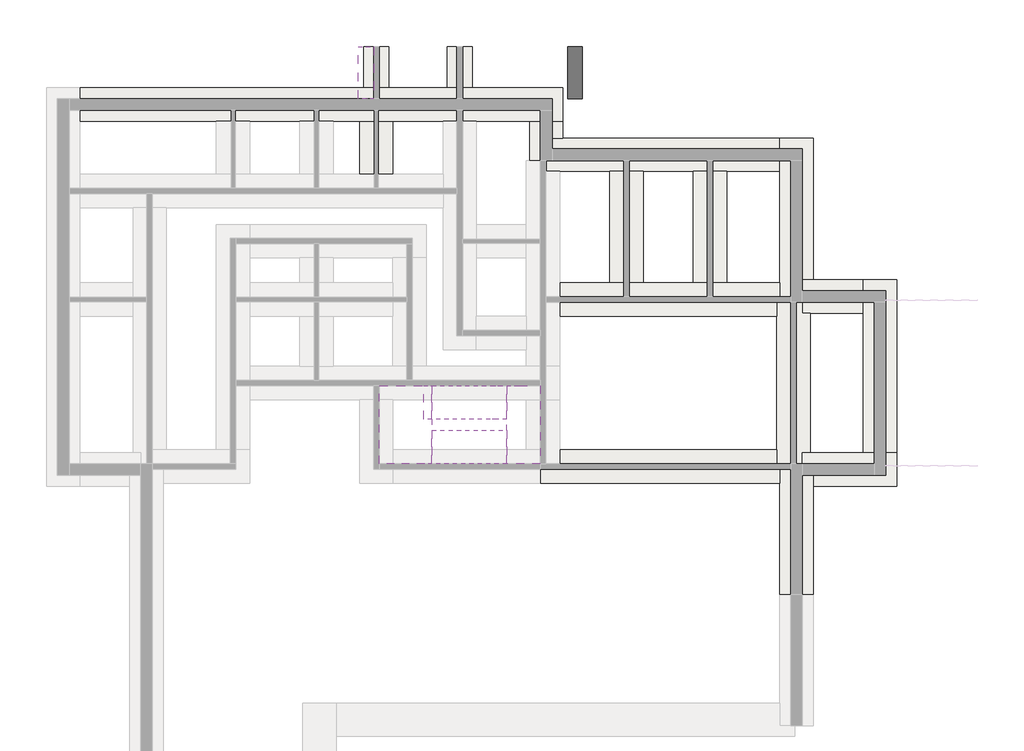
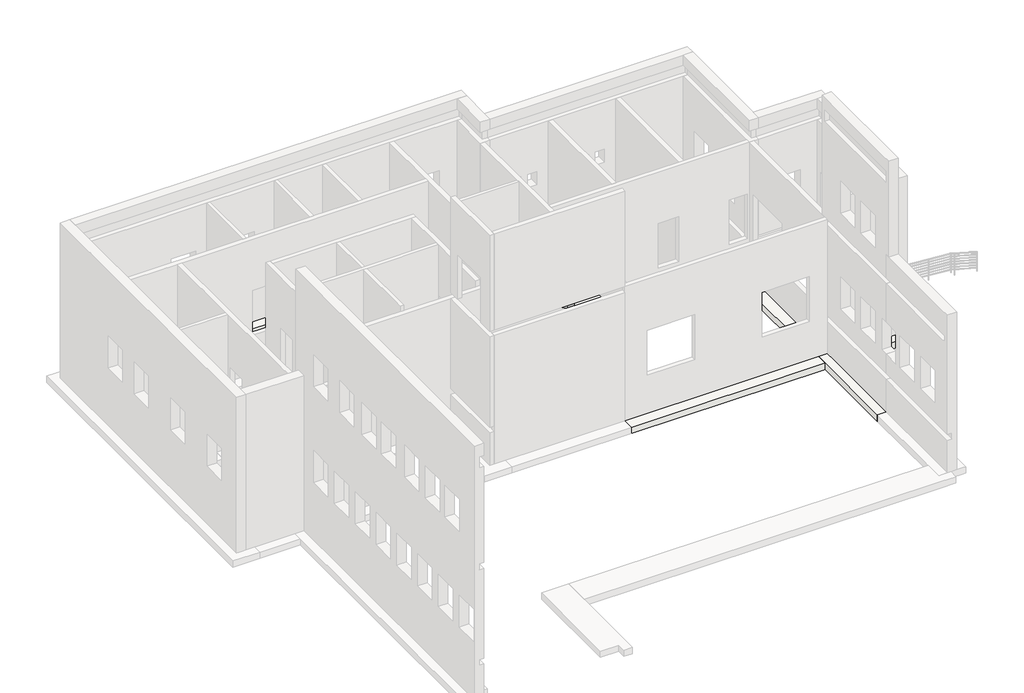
# One storey, part 4 of 5: 16 footings, 4 stair flights, 2 slabs, 1 ramp.
"""IFC4 building model written with IfcOpenShell, lengths in millimetres."""

from ifc_helpers import new_model, si_unit, frame, origin, place, context, project, spatial, polyline, outline, extrude, faceted_brep, transform, mapped, element, save
from components import ramp_f884092f

model = new_model("IFC4")

# Units and contexts
model_context = context("Model", 3, world=origin())
ifc_project = project(units=[si_unit("LENGTHUNIT", "METRE", prefix="MILLI")], contexts=[model_context])

# Site, building, storey
site = spatial("IfcSite", under=ifc_project)
building = spatial("IfcBuilding", under=site)
storey = spatial("IfcBuildingStorey", under=building, Name="Фундамент", Elevation=-1800.0)

# Footings
placement = place(None, origin())
element("IfcFooting", 1, ObjectType="Опорная пята - 1200 x 300", at=placement, inside=storey, context=model_context, shape_type="Brep", body=[
    faceted_brep([(8252.7882356, 5792.3976828, -1800.0), (9062.7882356, 5792.3976828, -1800.0), (9452.7882356, 5792.3976828, -1800.0), (9452.7882356, 5792.3976828, -2100.0), (9062.7882356, 5792.3976828, -2100.0), (8252.7882356, 5792.3976828, -2100.0), (9452.7882356, 1082.3976828, -1800.0), (8252.7882356, 1082.3976828, -1800.0), (8252.7882356, 1082.3976828, -2100.0), (9452.7882356, 1082.3976828, -2100.0), (8252.7882356, 5092.3976828, -1800.0), (9452.7882356, 4982.3976828, -1800.0), (9452.7882356, 4982.3976828, -2100.0), (8252.7882356, 5092.3976828, -2100.0)], [[[0, 1, 2, 3, 4, 5]], [[6, 7, 8, 9]], [[0, 10, 7, 6, 11, 2, 1]], [[3, 2, 11, 6, 9, 12]], [[5, 4, 3, 12, 9, 8, 13]], [[0, 5, 13, 8, 7, 10]]]),
])
element("IfcFooting", 2, ObjectType="Опорная пята - 1200 x 300", at=placement, inside=storey, context=model_context, shape_type="Brep", body=[
    faceted_brep([(9062.7882356, 6182.3976828, -1800.0), (9062.7882356, 6182.3976828, -2100.0), (9062.7882356, 5792.3976828, -2100.0), (9062.7882356, 5792.3976828, -1800.0), (12452.7882356, 6182.3976828, -1800.0), (11252.7882356, 6182.3976828, -1800.0), (9342.7882356, 6182.3976828, -1800.0), (9452.7882356, 5792.3976828, -1800.0), (9452.7882356, 4982.3976828, -1800.0), (12452.7882356, 4982.3976828, -1800.0), (12452.7882356, 4982.3976828, -2100.0), (9452.7882356, 4982.3976828, -2100.0), (9342.7882356, 6182.3976828, -2100.0), (11252.7882356, 6182.3976828, -2100.0), (12452.7882356, 6182.3976828, -2100.0), (9452.7882356, 5792.3976828, -2100.0)], [[[0, 1, 2, 3]], [[4, 5, 6, 0, 3, 7, 8, 9]], [[10, 9, 8, 11]], [[1, 12, 13, 14, 10, 11, 15, 2]], [[1, 0, 6, 5, 4, 14, 13, 12]], [[7, 15, 11, 8]], [[4, 9, 10, 14]], [[15, 7, 3, 2]]]),
])
element("IfcFooting", 3, ObjectType="Опорная пята - 1200 x 300", at=placement, inside=storey, context=model_context, shape_type="Brep", body=[
    faceted_brep([(12452.7882356, 12402.3976828, -1800.0), (11252.7882356, 12402.3976828, -1800.0), (11252.7882356, 11202.3976828, -1800.0), (11252.7882356, 6182.3976828, -1800.0), (12452.7882356, 6182.3976828, -1800.0), (12452.7882356, 12402.3976828, -2100.0), (12452.7882356, 6182.3976828, -2100.0), (11252.7882356, 12402.3976828, -2100.0), (11252.7882356, 6182.3976828, -2100.0), (11252.7882356, 11202.3976828, -2100.0)], [[[0, 1, 2, 3, 4]], [[5, 0, 4, 6]], [[7, 5, 6, 8, 9]], [[1, 7, 9, 8, 3, 2]], [[4, 3, 8, 6]], [[1, 0, 5, 7]]]),
])
element("IfcFooting", 4, ObjectType="Опорная пята - 1200 x 300", at=placement, inside=storey, context=model_context, shape_type="Brep", body=[
    faceted_brep([(9062.7882356, 12402.3976828, -1800.0), (9062.7882356, 12402.3976828, -2100.0), (9062.7882356, 11592.3976828, -2100.0), (9062.7882356, 11202.3976828, -2100.0), (9062.7882356, 11202.3976828, -1800.0), (9062.7882356, 11592.3976828, -1800.0), (9342.7882356, 11202.3976828, -1800.0), (11252.7882356, 11202.3976828, -1800.0), (11252.7882356, 12402.3976828, -1800.0), (9452.7882356, 12402.3976828, -1800.0), (11252.7882356, 12402.3976828, -2100.0), (9452.7882356, 12402.3976828, -2100.0), (11252.7882356, 11202.3976828, -2100.0), (9342.7882356, 11202.3976828, -2100.0)], [[[0, 1, 2, 3, 4, 5]], [[0, 5, 4, 6, 7, 8, 9]], [[1, 0, 9, 8, 10, 11]], [[3, 2, 1, 11, 10, 12, 13]], [[4, 3, 13, 12, 7, 6]], [[8, 7, 12, 10]]]),
])
element("IfcFooting", 5, ObjectType="Опорная пята - 1200 x 300", at=placement, inside=storey, context=model_context, shape_type="Brep", body=[
    faceted_brep([(8252.7882356, 11592.3976828, -1800.0), (8252.7882356, 11592.3976828, -2100.0), (9062.7882356, 11592.3976828, -2100.0), (9062.7882356, 11592.3976828, -1800.0), (8252.7882356, 17502.3976828, -1800.0), (8252.7882356, 16302.3976828, -1800.0), (8252.7882356, 12292.3976828, -1800.0), (9062.7882356, 12402.3976828, -1800.0), (9452.7882356, 12402.3976828, -1800.0), (9452.7882356, 17502.3976828, -1800.0), (9452.7882356, 17502.3976828, -2100.0), (9452.7882356, 12402.3976828, -2100.0), (8252.7882356, 12292.3976828, -2100.0), (8252.7882356, 16302.3976828, -2100.0), (8252.7882356, 17502.3976828, -2100.0), (9062.7882356, 12402.3976828, -2100.0)], [[[0, 1, 2, 3]], [[4, 5, 6, 0, 3, 7, 8, 9]], [[10, 9, 8, 11]], [[1, 12, 13, 14, 10, 11, 15, 2]], [[1, 0, 6, 5, 4, 14, 13, 12]], [[7, 15, 11, 8]], [[4, 9, 10, 14]], [[15, 7, 3, 2]]]),
])
element("IfcFooting", 6, ObjectType="Опорная пята - 1200 x 300", at=placement, inside=storey, context=model_context, shape_type="Brep", body=[
    faceted_brep([(-147.2117644, 16902.3976828, -1800.0), (-149.2724245, 16692.3976828, -1800.0), (-153.0993647, 16302.3976828, -1800.0), (342.7882356, 16302.3976828, -1800.0), (2142.7882356, 16302.3976828, -1800.0), (3342.7882356, 16302.3976828, -1800.0), (5142.7882356, 16302.3976828, -1800.0), (6342.7882356, 16302.3976828, -1800.0), (8252.7882356, 16302.3976828, -1800.0), (8252.7882356, 17502.3976828, -1800.0), (452.7882356, 17502.3976828, -1800.0), (-147.2117644, 17502.3976828, -1800.0), (-147.2117644, 17502.3976828, -2100.0), (8252.7882356, 17502.3976828, -2100.0), (452.7882356, 17502.3976828, -2100.0), (-147.2117644, 16902.3976828, -2100.0), (8252.7882356, 16302.3976828, -2100.0), (6342.7882356, 16302.3976828, -2100.0), (5142.7882356, 16302.3976828, -2100.0), (3342.7882356, 16302.3976828, -2100.0), (2142.7882356, 16302.3976828, -2100.0), (342.7882356, 16302.3976828, -2100.0), (-153.0993647, 16302.3976828, -2100.0), (-149.2724245, 16692.3976828, -2100.0)], [[[0, 1, 2, 3, 4, 5, 6, 7, 8, 9, 10, 11]], [[12, 11, 10, 9, 13, 14]], [[15, 12, 14, 13, 16, 17, 18, 19, 20, 21, 22, 23]], [[2, 22, 21, 20, 19, 18, 17, 16, 8, 7, 6, 5, 4, 3]], [[9, 8, 16, 13]], [[22, 2, 1, 0, 15, 23]], [[11, 12, 15, 0]]]),
])
element("IfcFooting", 7, ObjectType="Опорная пята - 1200 x 300", at=placement, inside=storey, context=model_context, shape_type="Brep", body=[
    faceted_brep([(452.7882356, 18102.3976828, -1800.0), (452.7882356, 19302.3976828, -1800.0), (-2807.2117644, 19302.3976828, -1800.0), (-3707.2117644, 19302.3976828, -1800.0), (-5807.2117644, 19302.3976828, -1800.0), (-6707.2117644, 19302.3976828, -1800.0), (-16917.2117644, 19302.3976828, -1800.0), (-16917.2117644, 18102.3976828, -1800.0), (-12007.2117644, 18102.3976828, -1800.0), (-10807.2117644, 18102.3976828, -1800.0), (-9007.2117644, 18102.3976828, -1800.0), (-7807.2117644, 18102.3976828, -1800.0), (-6857.2117644, 18102.3976828, -1800.0), (-5657.2117644, 18102.3976828, -1800.0), (-3857.2117644, 18102.3976828, -1800.0), (-2657.2117644, 18102.3976828, -1800.0), (-747.2117644, 18102.3976828, -1800.0), (452.7882356, 19302.3976828, -2100.0), (-2807.2117644, 19302.3976828, -2100.0), (-3707.2117644, 19302.3976828, -2100.0), (-5807.2117644, 19302.3976828, -2100.0), (-6707.2117644, 19302.3976828, -2100.0), (-16917.2117644, 19302.3976828, -2100.0), (452.7882356, 18102.3976828, -2100.0), (-747.2117644, 18102.3976828, -2100.0), (-2657.2117644, 18102.3976828, -2100.0), (-3857.2117644, 18102.3976828, -2100.0), (-5657.2117644, 18102.3976828, -2100.0), (-6857.2117644, 18102.3976828, -2100.0), (-7807.2117644, 18102.3976828, -2100.0), (-9007.2117644, 18102.3976828, -2100.0), (-10807.2117644, 18102.3976828, -2100.0), (-12007.2117644, 18102.3976828, -2100.0), (-16917.2117644, 18102.3976828, -2100.0)], [[[0, 1, 2, 3, 4, 5, 6, 7, 8, 9, 10, 11, 12, 13, 14, 15, 16]], [[1, 17, 18, 19, 20, 21, 22, 6, 5, 4, 3, 2]], [[17, 23, 24, 25, 26, 27, 28, 29, 30, 31, 32, 33, 22, 21, 20, 19, 18]], [[23, 0, 16, 15, 14, 13, 12, 11, 10, 9, 8, 7, 33, 32, 31, 30, 29, 28, 27, 26, 25, 24]], [[1, 0, 23, 17]], [[7, 6, 22, 33]]]),
])
element("IfcFooting", 8, ObjectType="Опорная пята - 1200 x 300", at=placement, inside=storey, context=model_context, shape_type="SweptSolid", body=[
    extrude(outline(polyline([(-149.2724245, 16692.3976828), (-747.2117644, 16692.3976828), (-747.2117644, 18102.3976828), (452.7882356, 18102.3976828), (452.7882356, 17502.3976828), (-147.2117644, 17502.3976828), (-147.2117644, 16902.3976828), (-149.2724245, 16692.3976828)])), frame((0.0, 0.0, -2100.0), z_axis=(0.0, 0.0, 1.0), x_axis=(1.0, 0.0, 0.0)), (0.0, 0.0, 1.0), 300.0),
])
element("IfcFooting", 9, ObjectType="Опорная пята - 1200 x 300", at=placement, inside=storey, context=model_context, shape_type="Brep", body=[
    faceted_brep([(8142.7882356, 5792.3976828, -1800.0), (8142.7882356, 5792.3976828, -2100.0), (8252.7882356, 5792.3976828, -2100.0), (9062.7882356, 5792.3976828, -2100.0), (9062.7882356, 5792.3976828, -1800.0), (8252.7882356, 5792.3976828, -1800.0), (8142.7882356, 11592.3976828, -2100.0), (8142.7882356, 11592.3976828, -1800.0), (8252.7882356, 11592.3976828, -1800.0), (9062.7882356, 11592.3976828, -1800.0), (9062.7882356, 11592.3976828, -2100.0), (8252.7882356, 11592.3976828, -2100.0), (8142.7882356, 11092.3976828, -1800.0), (8142.7882356, 6292.3976828, -1800.0), (9062.7882356, 6182.3976828, -1800.0), (9342.7882356, 6182.3976828, -1800.0), (9342.7882356, 11202.3976828, -1800.0), (9062.7882356, 11202.3976828, -1800.0), (8142.7882356, 11092.3976828, -2100.0), (8142.7882356, 6292.3976828, -2100.0), (9062.7882356, 11202.3976828, -2100.0), (9342.7882356, 11202.3976828, -2100.0), (9342.7882356, 6182.3976828, -2100.0), (9062.7882356, 6182.3976828, -2100.0)], [[[0, 1, 2, 3, 4, 5]], [[6, 7, 8, 9, 10, 11]], [[7, 12, 13, 0, 5, 4, 14, 15, 16, 17, 9, 8]], [[1, 0, 13, 12, 7, 6, 18, 19]], [[1, 19, 18, 6, 11, 10, 20, 21, 22, 23, 3, 2]], [[15, 22, 21, 16]], [[23, 14, 4, 3]], [[14, 23, 22, 15]], [[17, 20, 10, 9]], [[20, 17, 16, 21]]]),
])
element("IfcFooting", 10, ObjectType="Опорная пята - 1200 x 300", at=placement, inside=storey, context=model_context, shape_type="Brep", body=[
    faceted_brep([(342.7882356, 12292.3976828, -1800.0), (342.7882356, 11092.3976828, -1800.0), (8142.7882356, 11092.3976828, -1800.0), (8142.7882356, 11592.3976828, -1800.0), (8252.7882356, 11592.3976828, -1800.0), (8252.7882356, 12292.3976828, -1800.0), (6342.7882356, 12292.3976828, -1800.0), (5142.7882356, 12292.3976828, -1800.0), (3342.7882356, 12292.3976828, -1800.0), (2142.7882356, 12292.3976828, -1800.0), (342.7882356, 12292.3976828, -2100.0), (8252.7882356, 12292.3976828, -2100.0), (6342.7882356, 12292.3976828, -2100.0), (5142.7882356, 12292.3976828, -2100.0), (3342.7882356, 12292.3976828, -2100.0), (2142.7882356, 12292.3976828, -2100.0), (342.7882356, 11092.3976828, -2100.0), (8252.7882356, 11592.3976828, -2100.0), (8142.7882356, 11592.3976828, -2100.0), (8142.7882356, 11092.3976828, -2100.0)], [[[0, 1, 2, 3, 4, 5, 6, 7, 8, 9]], [[10, 0, 9, 8, 7, 6, 5, 11, 12, 13, 14, 15]], [[16, 10, 15, 14, 13, 12, 11, 17, 18, 19]], [[1, 16, 19, 2]], [[1, 0, 10, 16]], [[5, 4, 17, 11]], [[3, 18, 17, 4]], [[18, 3, 2, 19]]]),
])
element("IfcFooting", 11, ObjectType="Опорная пята - 1200 x 300", at=placement, inside=storey, context=model_context, shape_type="SweptSolid", body=[
    extrude(outline(polyline([(5142.7882356, 16302.3976828), (6342.7882356, 16302.3976828), (6342.7882356, 12292.3976828), (5142.7882356, 12292.3976828), (5142.7882356, 16302.3976828)])), frame((0.0, 0.0, -2100.0), z_axis=(0.0, 0.0, 1.0), x_axis=(1.0, 0.0, 0.0)), (0.0, 0.0, 1.0), 300.0),
])
element("IfcFooting", 12, ObjectType="Опорная пята - 1200 x 300", at=placement, inside=storey, context=model_context, shape_type="SweptSolid", body=[
    extrude(outline(polyline([(2142.7882356, 16302.3976828), (3342.7882356, 16302.3976828), (3342.7882356, 12292.3976828), (2142.7882356, 12292.3976828), (2142.7882356, 16302.3976828)])), frame((0.0, 0.0, -2100.0), z_axis=(0.0, 0.0, 1.0), x_axis=(1.0, 0.0, 0.0)), (0.0, 0.0, 1.0), 300.0),
])
element("IfcFooting", 13, ObjectType="Опорная пята - 1200 x 300", at=placement, inside=storey, context=model_context, shape_type="SweptSolid", body=[
    extrude(outline(polyline([(-6857.2117644, 18102.3976828), (-5657.2117644, 18102.3976828), (-5657.2117644, 16192.3976828), (-6857.2117644, 16192.3976828), (-6857.2117644, 18102.3976828)])), frame((0.0, 0.0, -2100.0), z_axis=(0.0, 0.0, 1.0), x_axis=(1.0, 0.0, 0.0)), (0.0, 0.0, 1.0), 300.0),
])
element("IfcFooting", 14, ObjectType="Опорная пята - 1200 x 300", at=placement, inside=storey, context=model_context, shape_type="SweptSolid", body=[
    extrude(outline(polyline([(8252.7882356, 5092.3976828), (-357.2117644, 5092.3976828), (-357.2117644, 5792.3976828), (342.7882356, 5792.3976828), (342.7882356, 6292.3976828), (8142.7882356, 6292.3976828), (8142.7882356, 5792.3976828), (8252.7882356, 5792.3976828), (8252.7882356, 5092.3976828)])), frame((0.0, 0.0, -2100.0), z_axis=(0.0, 0.0, 1.0), x_axis=(1.0, 0.0, 0.0)), (0.0, 0.0, 1.0), 300.0),
])
element("IfcFooting", 15, ObjectType="Опорная пята - 900 x 300", at=placement, inside=storey, context=model_context, shape_type="SweptSolid", body=[
    extrude(outline(polyline([(-3707.2117644, 20792.3976828), (-2807.2117644, 20792.3976828), (-2807.2117644, 19302.3976828), (-3707.2117644, 19302.3976828), (-3707.2117644, 20792.3976828)])), frame((0.0, 0.0, -2100.0), z_axis=(0.0, 0.0, 1.0), x_axis=(1.0, 0.0, 0.0)), (0.0, 0.0, 1.0), 300.0),
])
element("IfcFooting", 16, ObjectType="Опорная пята - 900 x 300", at=placement, inside=storey, context=model_context, shape_type="SweptSolid", body=[
    extrude(outline(polyline([(-6707.2117644, 20792.3976828), (-5807.2117644, 20792.3976828), (-5807.2117644, 19302.3976828), (-6707.2117644, 19302.3976828), (-6707.2117644, 20792.3976828)])), frame((0.0, 0.0, -2100.0), z_axis=(0.0, 0.0, 1.0), x_axis=(1.0, 0.0, 0.0)), (0.0, 0.0, 1.0), 300.0),
])

# Ramp
ramp_shape = ramp_f884092f(model_context)
element("IfcRamp", 17, ObjectType="Пандус 1", at=placement, inside=storey, context=model_context, shape_type="MappedRepresentation", body=[
    mapped(ramp_shape, transform((0.0, 0.0, 0.0), x_axis=(1.0, 0.0, 0.0), y_axis=(0.0, 1.0, 0.0), z_axis=(0.0, 0.0, 1.0))),
])

# Slabs
element("IfcSlab", 18, ObjectType="Толщина 300 мм", at=placement, inside=storey, context=model_context, shape_type="Brep", body=[
    faceted_brep([(-4257.2117644, 7392.3976828, 1430.0), (-4257.2117644, 8592.3976828, 1430.0), (-4292.621961, 8592.3976828, 1430.0), (-6157.2117644, 8592.3976828, 1430.0), (-6157.2117644, 5792.3976828, 1430.0), (-4521.8015678, 5792.3976828, 1430.0), (-4257.2117644, 5792.3976828, 1430.0), (-4257.2117644, 6992.3976828, 1430.0), (-4257.2117644, 7392.3976828, 1130.0), (-4257.2117644, 7392.3976828, 1112.2949017), (-4257.2117644, 8592.3976828, 1112.2949017), (-4257.2117644, 8592.3976828, 1280.0), (-4292.621961, 8592.3976828, 1130.0), (-6157.2117644, 8592.3976828, 1130.0), (-6157.2117644, 5792.3976828, 1130.0), (-4521.8015678, 5792.3976828, 1130.0), (-4257.2117644, 5792.3976828, 1262.2949017), (-4257.2117644, 6992.3976828, 1262.2949017), (-4257.2117644, 6992.3976828, 1130.0), (-4521.8015678, 6992.3976828, 1130.0), (-4292.621961, 7392.3976828, 1130.0)], [[[0, 1, 2, 3, 4, 5, 6, 7]], [[1, 0, 8, 9, 10, 11]], [[1, 11, 10, 12, 13, 3, 2]], [[4, 3, 13, 14]], [[4, 14, 15, 16, 6, 5]], [[7, 6, 16, 17]], [[0, 7, 17, 18, 8]], [[18, 19, 15, 14, 13, 12, 20, 8]], [[19, 18, 17]], [[20, 12, 10, 9]], [[8, 20, 9]], [[15, 19, 17, 16]]]),
])
element("IfcSlab", 19, ObjectType="Толщина 300 мм", at=placement, inside=storey, context=model_context, shape_type="Brep", body=[
    faceted_brep([(-1557.2117644, 6992.3976828, 2930.0), (-1557.2117644, 5792.3976828, 2930.0), (-1521.8015678, 5792.3976828, 2930.0), (-357.2117644, 5792.3976828, 2930.0), (-357.2117644, 8592.3976828, 2930.0), (-1292.621961, 8592.3976828, 2930.0), (-1557.2117644, 8592.3976828, 2930.0), (-1557.2117644, 7392.3976828, 2930.0), (-1557.2117644, 6992.3976828, 2630.0), (-1557.2117644, 6992.3976828, 2612.2949017), (-1557.2117644, 5792.3976828, 2612.2949017), (-1557.2117644, 5792.3976828, 2780.0), (-1521.8015678, 5792.3976828, 2630.0), (-357.2117644, 5792.3976828, 2630.0), (-357.2117644, 8592.3976828, 2630.0), (-1292.621961, 8592.3976828, 2630.0), (-1557.2117644, 8592.3976828, 2762.2949017), (-1557.2117644, 7392.3976828, 2762.2949017), (-1557.2117644, 7392.3976828, 2630.0), (-1292.621961, 7392.3976828, 2630.0), (-1521.8015678, 6992.3976828, 2630.0)], [[[0, 1, 2, 3, 4, 5, 6, 7]], [[1, 0, 8, 9, 10, 11]], [[1, 11, 10, 12, 13, 3, 2]], [[4, 3, 13, 14]], [[4, 14, 15, 16, 6, 5]], [[7, 6, 16, 17]], [[0, 7, 17, 18, 8]], [[18, 19, 15, 14, 13, 12, 20, 8]], [[19, 18, 17]], [[20, 12, 10, 9]], [[8, 20, 9]], [[15, 19, 17, 16]]]),
])

# Stair flights
element("IfcStairFlight", 20, ObjectType="Глубина 150 мм", at=placement, inside=storey, context=model_context, shape_type="Brep", body=[
    faceted_brep([(-1857.2117644, 7392.3976828, 80.0), (-1557.2117644, 7392.3976828, 80.0), (-1557.2117644, 8592.3976828, 80.0), (-1857.2117644, 8592.3976828, 80.0), (-1857.2117644, 7392.3976828, -70.0), (-1557.2117644, 7392.3976828, -70.0), (-1557.2117644, 7392.3976828, 0.0), (-1557.2117644, 8592.3976828, -70.0), (-1557.2117644, 8592.3976828, 0.0), (-1857.2117644, 8592.3976828, -70.0), (-2157.2117644, 7392.3976828, 230.0), (-1857.2117644, 7392.3976828, 230.0), (-1857.2117644, 8592.3976828, 230.0), (-2157.2117644, 8592.3976828, 230.0), (-2157.2117644, 7392.3976828, 62.2949017), (-2032.621961, 7392.3976828, 0.0), (-1892.621961, 7392.3976828, -70.0), (-1892.621961, 8592.3976828, -70.0), (-2032.621961, 8592.3976828, 0.0), (-2157.2117644, 8592.3976828, 62.2949017), (-2457.2117644, 7392.3976828, 380.0), (-2157.2117644, 7392.3976828, 380.0), (-2157.2117644, 8592.3976828, 380.0), (-2457.2117644, 8592.3976828, 380.0), (-2457.2117644, 7392.3976828, 212.2949017), (-2457.2117644, 8592.3976828, 212.2949017), (-2757.2117644, 7392.3976828, 530.0), (-2457.2117644, 7392.3976828, 530.0), (-2457.2117644, 8592.3976828, 530.0), (-2757.2117644, 8592.3976828, 530.0), (-2757.2117644, 7392.3976828, 362.2949017), (-2757.2117644, 8592.3976828, 362.2949017), (-3057.2117644, 7392.3976828, 680.0), (-2757.2117644, 7392.3976828, 680.0), (-2757.2117644, 8592.3976828, 680.0), (-3057.2117644, 8592.3976828, 680.0), (-3057.2117644, 7392.3976828, 512.2949017), (-3057.2117644, 8592.3976828, 512.2949017), (-3357.2117644, 7392.3976828, 830.0), (-3057.2117644, 7392.3976828, 830.0), (-3057.2117644, 8592.3976828, 830.0), (-3357.2117644, 8592.3976828, 830.0), (-3357.2117644, 7392.3976828, 662.2949017), (-3357.2117644, 8592.3976828, 662.2949017), (-3657.2117644, 7392.3976828, 980.0), (-3357.2117644, 7392.3976828, 980.0), (-3357.2117644, 8592.3976828, 980.0), (-3657.2117644, 8592.3976828, 980.0), (-3657.2117644, 7392.3976828, 812.2949017), (-3657.2117644, 8592.3976828, 812.2949017), (-3957.2117644, 7392.3976828, 1130.0), (-3657.2117644, 7392.3976828, 1130.0), (-3657.2117644, 8592.3976828, 1130.0), (-3957.2117644, 8592.3976828, 1130.0), (-3957.2117644, 7392.3976828, 962.2949017), (-3957.2117644, 8592.3976828, 962.2949017), (-4257.2117644, 7392.3976828, 1280.0), (-3957.2117644, 7392.3976828, 1280.0), (-3957.2117644, 8592.3976828, 1280.0), (-4257.2117644, 8592.3976828, 1280.0), (-4257.2117644, 7392.3976828, 1130.0), (-4257.2117644, 7392.3976828, 1112.2949017), (-4257.2117644, 8592.3976828, 1112.2949017)], [[[0, 1, 2, 3]], [[1, 0, 4, 5, 6]], [[2, 1, 6, 5, 7, 8]], [[3, 2, 8, 7, 9]], [[10, 11, 12, 13]], [[4, 0, 11, 10, 14, 15, 16]], [[0, 3, 12, 11]], [[3, 9, 17, 18, 19, 13, 12]], [[20, 21, 22, 23]], [[21, 20, 24, 14, 10]], [[10, 13, 22, 21]], [[23, 22, 13, 19, 25]], [[26, 27, 28, 29]], [[27, 26, 30, 24, 20]], [[20, 23, 28, 27]], [[29, 28, 23, 25, 31]], [[32, 33, 34, 35]], [[33, 32, 36, 30, 26]], [[26, 29, 34, 33]], [[35, 34, 29, 31, 37]], [[38, 39, 40, 41]], [[39, 38, 42, 36, 32]], [[32, 35, 40, 39]], [[41, 40, 35, 37, 43]], [[44, 45, 46, 47]], [[45, 44, 48, 42, 38]], [[38, 41, 46, 45]], [[47, 46, 41, 43, 49]], [[50, 51, 52, 53]], [[51, 50, 54, 48, 44]], [[44, 47, 52, 51]], [[53, 52, 47, 49, 55]], [[56, 57, 58, 59]], [[57, 56, 60, 61, 54, 50]], [[50, 53, 58, 57]], [[59, 58, 53, 55, 62]], [[56, 59, 62, 61, 60]], [[5, 4, 16, 17, 9, 7]], [[17, 16, 15, 14, 24, 30, 36, 42, 48, 54, 61, 62, 55, 49, 43, 37, 31, 25, 19, 18]]]),
])
element("IfcStairFlight", 21, ObjectType="Глубина 150 мм", at=placement, inside=storey, context=model_context, shape_type="Brep", body=[
    faceted_brep([(-3957.2117644, 6992.3976828, 1580.0), (-4257.2117644, 6992.3976828, 1580.0), (-4257.2117644, 5792.3976828, 1580.0), (-3957.2117644, 5792.3976828, 1580.0), (-3957.2117644, 6992.3976828, 1412.2949017), (-4257.2117644, 6992.3976828, 1262.2949017), (-4257.2117644, 5792.3976828, 1262.2949017), (-4257.2117644, 5792.3976828, 1430.0), (-3957.2117644, 5792.3976828, 1412.2949017), (-3657.2117644, 6992.3976828, 1730.0), (-3957.2117644, 6992.3976828, 1730.0), (-3957.2117644, 5792.3976828, 1730.0), (-3657.2117644, 5792.3976828, 1730.0), (-3657.2117644, 6992.3976828, 1562.2949017), (-3657.2117644, 5792.3976828, 1562.2949017), (-3357.2117644, 6992.3976828, 1880.0), (-3657.2117644, 6992.3976828, 1880.0), (-3657.2117644, 5792.3976828, 1880.0), (-3357.2117644, 5792.3976828, 1880.0), (-3357.2117644, 6992.3976828, 1712.2949017), (-3357.2117644, 5792.3976828, 1712.2949017), (-3057.2117644, 6992.3976828, 2030.0), (-3357.2117644, 6992.3976828, 2030.0), (-3357.2117644, 5792.3976828, 2030.0), (-3057.2117644, 5792.3976828, 2030.0), (-3057.2117644, 6992.3976828, 1862.2949017), (-3057.2117644, 5792.3976828, 1862.2949017), (-2757.2117644, 6992.3976828, 2180.0), (-3057.2117644, 6992.3976828, 2180.0), (-3057.2117644, 5792.3976828, 2180.0), (-2757.2117644, 5792.3976828, 2180.0), (-2757.2117644, 6992.3976828, 2012.2949017), (-2757.2117644, 5792.3976828, 2012.2949017), (-2457.2117644, 6992.3976828, 2330.0), (-2757.2117644, 6992.3976828, 2330.0), (-2757.2117644, 5792.3976828, 2330.0), (-2457.2117644, 5792.3976828, 2330.0), (-2457.2117644, 6992.3976828, 2162.2949017), (-2457.2117644, 5792.3976828, 2162.2949017), (-2157.2117644, 6992.3976828, 2480.0), (-2457.2117644, 6992.3976828, 2480.0), (-2457.2117644, 5792.3976828, 2480.0), (-2157.2117644, 5792.3976828, 2480.0), (-2157.2117644, 6992.3976828, 2312.2949017), (-2157.2117644, 5792.3976828, 2312.2949017), (-1857.2117644, 6992.3976828, 2630.0), (-2157.2117644, 6992.3976828, 2630.0), (-2157.2117644, 5792.3976828, 2630.0), (-1857.2117644, 5792.3976828, 2630.0), (-1857.2117644, 6992.3976828, 2462.2949017), (-1857.2117644, 5792.3976828, 2462.2949017), (-1557.2117644, 6992.3976828, 2780.0), (-1857.2117644, 6992.3976828, 2780.0), (-1857.2117644, 5792.3976828, 2780.0), (-1557.2117644, 5792.3976828, 2780.0), (-1557.2117644, 6992.3976828, 2630.0), (-1557.2117644, 6992.3976828, 2612.2949017), (-1557.2117644, 5792.3976828, 2612.2949017)], [[[0, 1, 2, 3]], [[1, 0, 4, 5]], [[2, 1, 5, 6, 7]], [[3, 2, 7, 6, 8]], [[9, 10, 11, 12]], [[10, 9, 13, 4, 0]], [[11, 10, 0, 3]], [[12, 11, 3, 8, 14]], [[15, 16, 17, 18]], [[16, 15, 19, 13, 9]], [[17, 16, 9, 12]], [[18, 17, 12, 14, 20]], [[21, 22, 23, 24]], [[22, 21, 25, 19, 15]], [[23, 22, 15, 18]], [[24, 23, 18, 20, 26]], [[27, 28, 29, 30]], [[28, 27, 31, 25, 21]], [[29, 28, 21, 24]], [[30, 29, 24, 26, 32]], [[33, 34, 35, 36]], [[34, 33, 37, 31, 27]], [[35, 34, 27, 30]], [[36, 35, 30, 32, 38]], [[39, 40, 41, 42]], [[40, 39, 43, 37, 33]], [[41, 40, 33, 36]], [[42, 41, 36, 38, 44]], [[45, 46, 47, 48]], [[46, 45, 49, 43, 39]], [[47, 46, 39, 42]], [[48, 47, 42, 44, 50]], [[51, 52, 53, 54]], [[52, 51, 55, 56, 49, 45]], [[53, 52, 45, 48]], [[54, 53, 48, 50, 57]], [[51, 54, 57, 56, 55]], [[5, 4, 13, 19, 25, 31, 37, 43, 49, 56, 57, 50, 44, 38, 32, 26, 20, 14, 8, 6]]]),
])
element("IfcStairFlight", 22, ObjectType="Глубина 150 мм", at=placement, inside=storey, context=model_context, shape_type="Brep", body=[
    faceted_brep([(-1857.2117644, 7392.3976828, 3080.0), (-1557.2117644, 7392.3976828, 3080.0), (-1557.2117644, 8592.3976828, 3080.0), (-1857.2117644, 8592.3976828, 3080.0), (-1857.2117644, 7392.3976828, 2912.2949017), (-1557.2117644, 7392.3976828, 2762.2949017), (-1557.2117644, 8592.3976828, 2762.2949017), (-1557.2117644, 8592.3976828, 2930.0), (-1857.2117644, 8592.3976828, 2912.2949017), (-2157.2117644, 7392.3976828, 3230.0), (-1857.2117644, 7392.3976828, 3230.0), (-1857.2117644, 8592.3976828, 3230.0), (-2157.2117644, 8592.3976828, 3230.0), (-2157.2117644, 7392.3976828, 3062.2949017), (-2157.2117644, 8592.3976828, 3062.2949017), (-2457.2117644, 7392.3976828, 3380.0), (-2157.2117644, 7392.3976828, 3380.0), (-2157.2117644, 8592.3976828, 3380.0), (-2457.2117644, 8592.3976828, 3380.0), (-2457.2117644, 7392.3976828, 3212.2949017), (-2457.2117644, 8592.3976828, 3212.2949017), (-2757.2117644, 7392.3976828, 3530.0), (-2457.2117644, 7392.3976828, 3530.0), (-2457.2117644, 8592.3976828, 3530.0), (-2757.2117644, 8592.3976828, 3530.0), (-2757.2117644, 7392.3976828, 3362.2949017), (-2757.2117644, 8592.3976828, 3362.2949017), (-3057.2117644, 7392.3976828, 3680.0), (-2757.2117644, 7392.3976828, 3680.0), (-2757.2117644, 8592.3976828, 3680.0), (-3057.2117644, 8592.3976828, 3680.0), (-3057.2117644, 7392.3976828, 3512.2949017), (-3057.2117644, 8592.3976828, 3512.2949017), (-3357.2117644, 7392.3976828, 3830.0), (-3057.2117644, 7392.3976828, 3830.0), (-3057.2117644, 8592.3976828, 3830.0), (-3357.2117644, 8592.3976828, 3830.0), (-3357.2117644, 7392.3976828, 3662.2949017), (-3357.2117644, 8592.3976828, 3662.2949017), (-3657.2117644, 7392.3976828, 3980.0), (-3357.2117644, 7392.3976828, 3980.0), (-3357.2117644, 8592.3976828, 3980.0), (-3657.2117644, 8592.3976828, 3980.0), (-3657.2117644, 7392.3976828, 3812.2949017), (-3657.2117644, 8592.3976828, 3812.2949017), (-3957.2117644, 7392.3976828, 4130.0), (-3657.2117644, 7392.3976828, 4130.0), (-3657.2117644, 8592.3976828, 4130.0), (-3957.2117644, 8592.3976828, 4130.0), (-3957.2117644, 7392.3976828, 3962.2949017), (-3957.2117644, 8592.3976828, 3962.2949017), (-4257.2117644, 7392.3976828, 4280.0), (-3957.2117644, 7392.3976828, 4280.0), (-3957.2117644, 8592.3976828, 4280.0), (-4257.2117644, 8592.3976828, 4280.0), (-4257.2117644, 7392.3976828, 4112.2949017), (-4257.2117644, 8592.3976828, 4112.2949017), (-4557.2117644, 7392.3976828, 4262.2949017), (-4557.2117644, 8592.3976828, 4262.2949017), (-4557.2117644, 7392.3976828, 4430.0), (-4257.2117644, 7392.3976828, 4430.0), (-4257.2117644, 8592.3976828, 4430.0), (-4557.2117644, 8592.3976828, 4430.0)], [[[0, 1, 2, 3]], [[1, 0, 4, 5]], [[2, 1, 5, 6, 7]], [[3, 2, 7, 6, 8]], [[9, 10, 11, 12]], [[10, 9, 13, 4, 0]], [[11, 10, 0, 3]], [[12, 11, 3, 8, 14]], [[15, 16, 17, 18]], [[16, 15, 19, 13, 9]], [[17, 16, 9, 12]], [[18, 17, 12, 14, 20]], [[21, 22, 23, 24]], [[22, 21, 25, 19, 15]], [[23, 22, 15, 18]], [[24, 23, 18, 20, 26]], [[27, 28, 29, 30]], [[28, 27, 31, 25, 21]], [[29, 28, 21, 24]], [[30, 29, 24, 26, 32]], [[33, 34, 35, 36]], [[34, 33, 37, 31, 27]], [[35, 34, 27, 30]], [[36, 35, 30, 32, 38]], [[39, 40, 41, 42]], [[40, 39, 43, 37, 33]], [[41, 40, 33, 36]], [[42, 41, 36, 38, 44]], [[45, 46, 47, 48]], [[46, 45, 49, 43, 39]], [[47, 46, 39, 42]], [[48, 47, 42, 44, 50]], [[51, 52, 53, 54]], [[52, 51, 55, 49, 45]], [[53, 52, 45, 48]], [[54, 53, 48, 50, 56]], [[5, 4, 13, 19, 25, 31, 37, 43, 49, 55, 57, 58, 56, 50, 44, 38, 32, 26, 20, 14, 8, 6]], [[59, 60, 61, 62]], [[60, 59, 57, 55, 51]], [[61, 60, 51, 54]], [[62, 61, 54, 56, 58]], [[59, 62, 58, 57]]]),
])
element("IfcStairFlight", 23, ObjectType="Глубина 150 мм", at=placement, inside=storey, context=model_context, shape_type="Brep", body=[
    faceted_brep([(-6632.2117644, 20792.3976828, -356.6666667), (-6907.2117644, 20792.3976828, -356.6666667), (-6907.2117644, 18912.3976828, -356.6666667), (-6632.2117644, 18912.3976828, -356.6666667), (-6632.2117644, 20792.3976828, -500.0), (-6907.2117644, 20792.3976828, -500.0), (-6907.2117644, 18912.3976828, -500.0), (-6632.2117644, 18912.3976828, -500.0), (-6357.2117644, 20792.3976828, -213.3333333), (-6632.2117644, 20792.3976828, -213.3333333), (-6632.2117644, 18912.3976828, -213.3333333), (-6357.2117644, 18912.3976828, -213.3333333), (-6357.2117644, 20792.3976828, -382.4853262), (-6582.6759641, 20792.3976828, -500.0), (-6582.6759641, 18912.3976828, -500.0), (-6357.2117644, 18912.3976828, -382.4853262)], [[[0, 1, 2, 3]], [[1, 0, 4, 5]], [[2, 1, 5, 6]], [[3, 2, 6, 7]], [[8, 9, 10, 11]], [[4, 0, 9, 8, 12, 13]], [[0, 3, 10, 9]], [[3, 7, 14, 15, 11, 10]], [[8, 11, 15, 12]], [[5, 4, 13, 14, 7, 6]], [[14, 13, 12, 15]]]),
])

save(model, "model.ifc")
